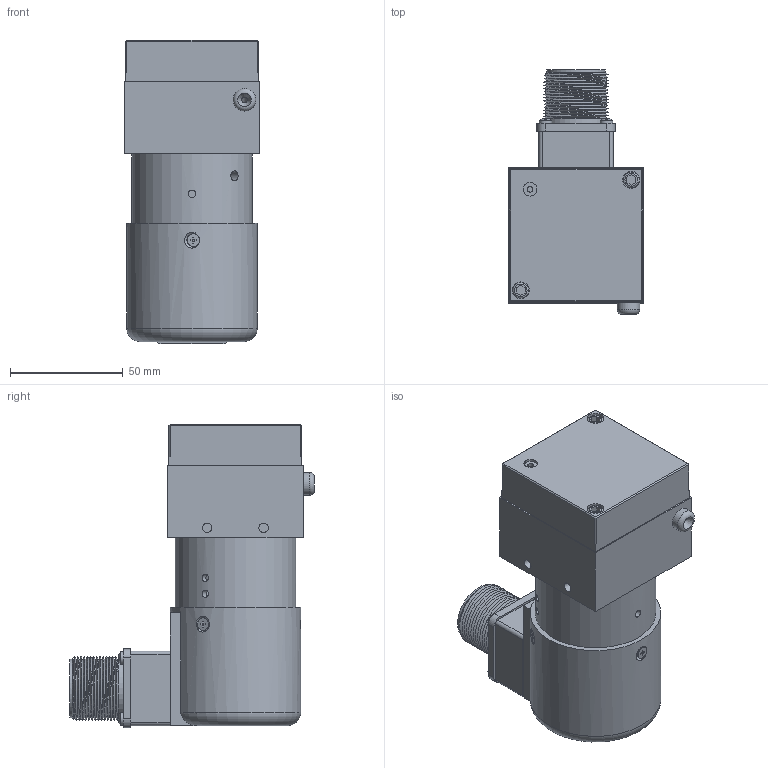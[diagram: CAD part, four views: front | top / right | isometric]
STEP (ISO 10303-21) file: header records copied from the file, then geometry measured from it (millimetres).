
FILE_DESCRIPTION( ( 'Unknown' ), '1' );
FILE_NAME( 'C:/Users/malfermoa/Desktop/step/FE_1500_EL53B.stp', 'Unknown', ( 'Unknown' ), ( 'Unknown' ), 'PSStep 15.0.49', 'Unknown', ' ' );
FILE_SCHEMA( ( 'AUTOMOTIVE_DESIGN { 1 0 10303 214 1 1 1 1 }' ) );
Length unit declared in the file: millimetre
Products named in the file (1): 23300035 - UNI 7688 M3x6 TSP+-oa5
Bounding box: 60 x 108.5 x 134.7 mm (x, y, z)
Volume: 213021.5 mm3; surface area: 102835.6 mm2
Topology: 1 solids, 12 shells, 728 faces, 1845 edges, 1209 vertices
Faces by surface type: plane 348, cylinder 268, bspline 46, cone 45, sphere 12, torus 9
Full cylindrical faces by diameter (mm): 2 x22, 2.05 x2, 2.2 x12, 2.5 x18, 2.6 x10, 3 x4, 3.2 x1, 3.3 x5, 3.4 x4, 3.5 x2, 4 x2, 4.2 x4, 4.5 x7, 4.9 x1, 5 x8, 5.6 x7, 6 x8, 7 x3, 7.5 x2, 8 x2, 10 x1, 10.5 x1, 11 x2, 12 x1, 19 x1, 22 x3, 23 x1, 23.9 x1, 25.2 x1, 26 x26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
Entity records: 38213 total; most frequent: CARTESIAN_POINT 17990, DIRECTION 2880, ORIENTED_EDGE 2776, EDGE_CURVE 1388, AXIS2_PLACEMENT_3D 1113, EDGE_LOOP 1029, VERTEX_POINT 1023, FACE_OUTER_BOUND 849
